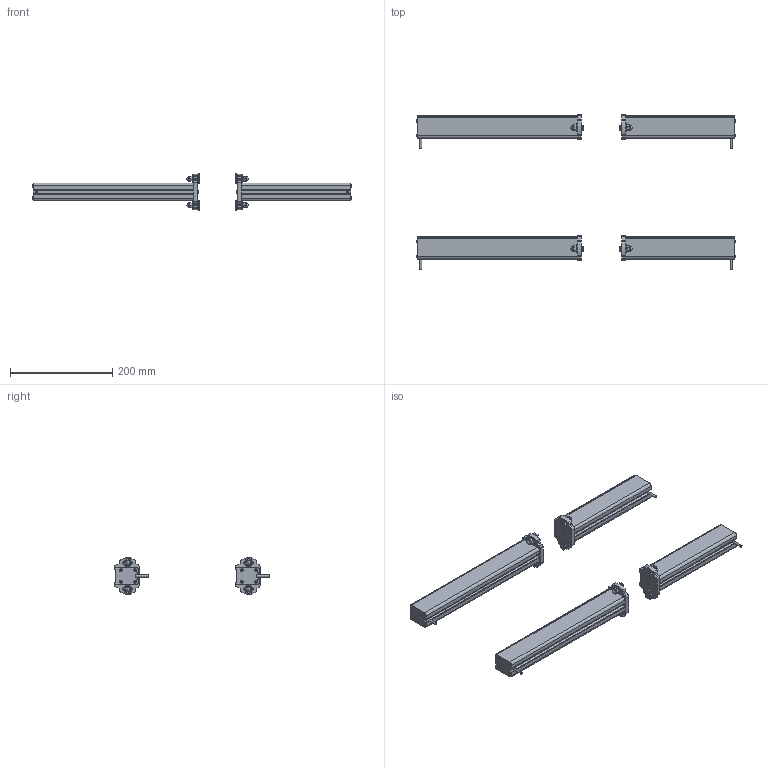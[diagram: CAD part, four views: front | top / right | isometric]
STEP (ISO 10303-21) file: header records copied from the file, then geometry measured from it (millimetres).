
FILE_DESCRIPTION( ( 'STEP AP203' ), '1' );
FILE_NAME( 'p:/temp/worker_31/temp/exporttempdir_4500_164_3M4kI/format_1/EY5010.stp', '2021-10-15T08:02:13', ( 'License CC BY-ND 4.0' ), ( 'CADENAS' ), ' ', 'PARTsolutions', ' ' );
FILE_SCHEMA( ( 'CONFIG_CONTROL_DESIGN' ) );
Length unit declared in the file: millimetre
Products named in the file (3): EY5010; _EY5010_P1; _EY5010_P2
Assembly tree (4 placements, depth 2):
  EY5010
    _EY5010_P1  x2
    _EY5010_P2  x2
Bounding box: 623.44 x 303.25 x 72 mm (x, y, z)
Volume: 1591974.6 mm3; surface area: 225829 mm2
Topology: 4 solids, 4 shells, 1004 faces, 2732 edges, 1796 vertices
Faces by surface type: plane 564, cylinder 416, torus 16, sphere 8
Full cylindrical faces by diameter (mm): 4 x4, 5 x16, 7 x4, 10 x8, 15 x8
Entity records: 15816 total; most frequent: DIRECTION 2818, CARTESIAN_POINT 2715, ORIENTED_EDGE 2640, EDGE_CURVE 1320, AXIS2_PLACEMENT_3D 991, VERTEX_POINT 888, LINE 836, VECTOR 836
